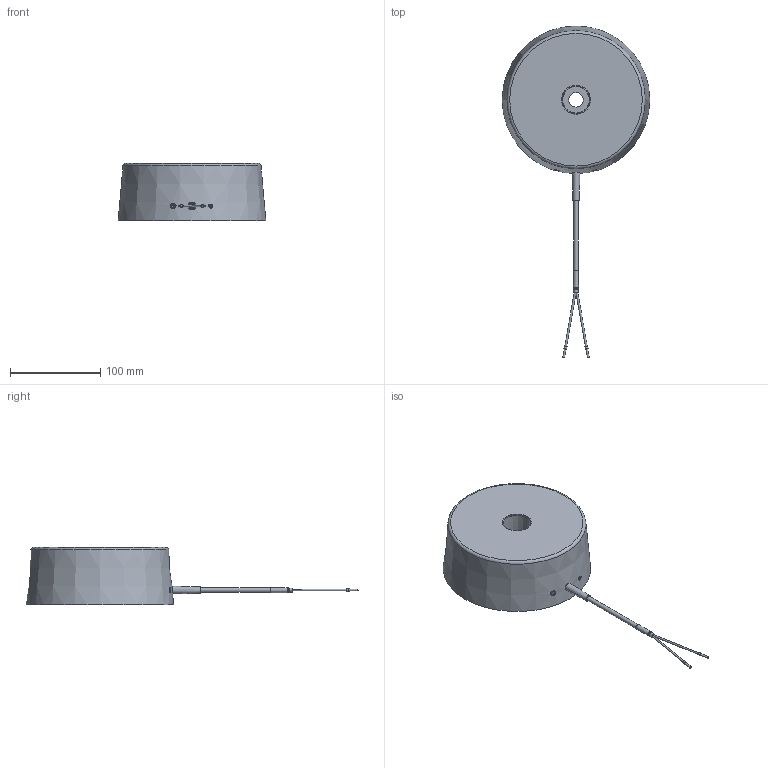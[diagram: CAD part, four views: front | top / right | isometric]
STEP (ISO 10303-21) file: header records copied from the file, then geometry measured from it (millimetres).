
FILE_DESCRIPTION( ( 'STEP AP203' ), '1' );
FILE_NAME( '//expscmdclustefs.cadenas.external/client_exchange/iodir/jobs/output/wkb81177133_no0/STEP/I22001_2_03.stp', ' ', ( ' ' ), ( ' ' ), 'PSStep 15.0.47', 'PARTsolutions', ' ' );
FILE_SCHEMA( ( 'CONFIG_CONTROL_DESIGN' ) );
Length unit declared in the file: millimetre
Products named in the file (1): _I22001
Bounding box: 163.5 x 367.73 x 63.19 mm (x, y, z)
Volume: 1215073.9 mm3; surface area: 77830.8 mm2
Topology: 1 solids, 1 shells, 54 faces, 95 edges, 62 vertices
Faces by surface type: plane 26, cylinder 17, cone 8, torus 3
Full cylindrical faces by diameter (mm): 2 x4, 3 x2, 4 x1, 4.1 x1, 4.5 x2, 4.6 x1, 5 x1, 5.55 x1, 6 x1, 19.5 x1, 20.1 x1, 32.1 x1
Entity records: 1356 total; most frequent: CARTESIAN_POINT 359, DIRECTION 216, ORIENTED_EDGE 124, EDGE_LOOP 103, AXIS2_PLACEMENT_3D 102, FACE_OUTER_BOUND 74, EDGE_CURVE 62, VERTEX_POINT 57
